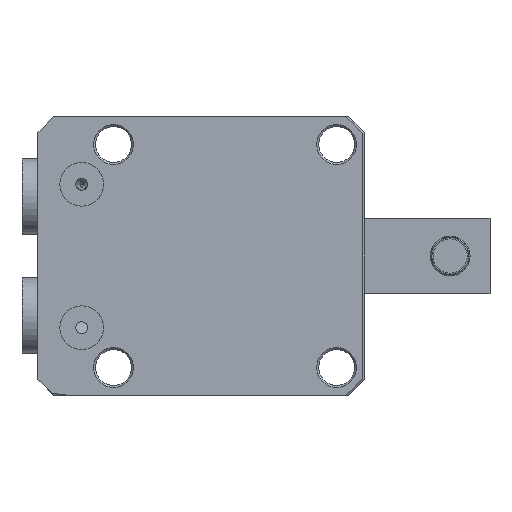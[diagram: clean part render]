
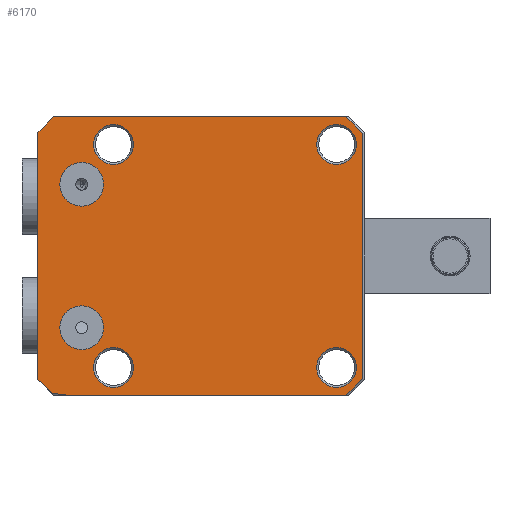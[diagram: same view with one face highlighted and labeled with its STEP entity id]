
A CAD part, front view. The second image highlights one B-rep face of the part: STEP entity #6170.
In plain terms, the highlighted planar face has unit normal (0, -1, 0).
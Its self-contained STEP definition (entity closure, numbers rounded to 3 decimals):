
#164=PLANE('',#6900);
#289=FACE_BOUND('',#879,.T.);
#290=FACE_BOUND('',#880,.T.);
#291=FACE_BOUND('',#881,.T.);
#292=FACE_BOUND('',#882,.T.);
#293=FACE_BOUND('',#883,.T.);
#294=FACE_BOUND('',#884,.T.);
#504=FACE_OUTER_BOUND('',#878,.T.);
#878=EDGE_LOOP('',(#4318,#4319,#4320,#4321,#4322,#4323,#4324,#4325,#4326,
#4327));
#879=EDGE_LOOP('',(#4328));
#880=EDGE_LOOP('',(#4329));
#881=EDGE_LOOP('',(#4330));
#882=EDGE_LOOP('',(#4331));
#883=EDGE_LOOP('',(#4332));
#884=EDGE_LOOP('',(#4333));
#1303=LINE('',#10129,#1771);
#1320=LINE('',#10168,#1788);
#1321=LINE('',#10170,#1789);
#1322=LINE('',#10172,#1790);
#1323=LINE('',#10174,#1791);
#1324=LINE('',#10175,#1792);
#1325=LINE('',#10177,#1793);
#1326=LINE('',#10179,#1794);
#1327=LINE('',#10180,#1795);
#1771=VECTOR('',#7822,1000.);
#1788=VECTOR('',#7853,1000.);
#1789=VECTOR('',#7854,1000.);
#1790=VECTOR('',#7855,1000.);
#1791=VECTOR('',#7856,1000.);
#1792=VECTOR('',#7857,1000.);
#1793=VECTOR('',#7858,1000.);
#1794=VECTOR('',#7859,1000.);
#1795=VECTOR('',#7860,1000.);
#2202=CIRCLE('',#6829,5.);
#2205=CIRCLE('',#6833,5.);
#2208=CIRCLE('',#6837,5.);
#2211=CIRCLE('',#6841,5.);
#2213=CIRCLE('',#6844,5.5);
#2215=CIRCLE('',#6847,5.5);
#2243=CIRCLE('',#6901,55.5);
#2618=VERTEX_POINT('',#9738);
#2621=VERTEX_POINT('',#9746);
#2624=VERTEX_POINT('',#9754);
#2627=VERTEX_POINT('',#9762);
#2629=VERTEX_POINT('',#9768);
#2631=VERTEX_POINT('',#9774);
#2683=VERTEX_POINT('',#10126);
#2684=VERTEX_POINT('',#10128);
#2697=VERTEX_POINT('',#10164);
#2698=VERTEX_POINT('',#10165);
#2699=VERTEX_POINT('',#10167);
#2700=VERTEX_POINT('',#10169);
#2701=VERTEX_POINT('',#10171);
#2702=VERTEX_POINT('',#10173);
#2703=VERTEX_POINT('',#10176);
#2704=VERTEX_POINT('',#10178);
#3221=EDGE_CURVE('',#2618,#2618,#2202,.T.);
#3225=EDGE_CURVE('',#2621,#2621,#2205,.T.);
#3229=EDGE_CURVE('',#2624,#2624,#2208,.T.);
#3233=EDGE_CURVE('',#2627,#2627,#2211,.T.);
#3236=EDGE_CURVE('',#2629,#2629,#2213,.T.);
#3239=EDGE_CURVE('',#2631,#2631,#2215,.T.);
#3311=EDGE_CURVE('',#2683,#2684,#1303,.T.);
#3329=EDGE_CURVE('',#2697,#2698,#2243,.T.);
#3330=EDGE_CURVE('',#2698,#2699,#1320,.T.);
#3331=EDGE_CURVE('',#2699,#2700,#1321,.T.);
#3332=EDGE_CURVE('',#2700,#2701,#1322,.T.);
#3333=EDGE_CURVE('',#2701,#2702,#1323,.T.);
#3334=EDGE_CURVE('',#2702,#2684,#1324,.T.);
#3335=EDGE_CURVE('',#2683,#2703,#1325,.T.);
#3336=EDGE_CURVE('',#2703,#2704,#1326,.T.);
#3337=EDGE_CURVE('',#2704,#2697,#1327,.T.);
#4318=ORIENTED_EDGE('',*,*,#3329,.T.);
#4319=ORIENTED_EDGE('',*,*,#3330,.T.);
#4320=ORIENTED_EDGE('',*,*,#3331,.T.);
#4321=ORIENTED_EDGE('',*,*,#3332,.T.);
#4322=ORIENTED_EDGE('',*,*,#3333,.T.);
#4323=ORIENTED_EDGE('',*,*,#3334,.T.);
#4324=ORIENTED_EDGE('',*,*,#3311,.F.);
#4325=ORIENTED_EDGE('',*,*,#3335,.T.);
#4326=ORIENTED_EDGE('',*,*,#3336,.T.);
#4327=ORIENTED_EDGE('',*,*,#3337,.T.);
#4328=ORIENTED_EDGE('',*,*,#3221,.T.);
#4329=ORIENTED_EDGE('',*,*,#3225,.T.);
#4330=ORIENTED_EDGE('',*,*,#3229,.T.);
#4331=ORIENTED_EDGE('',*,*,#3233,.T.);
#4332=ORIENTED_EDGE('',*,*,#3236,.T.);
#4333=ORIENTED_EDGE('',*,*,#3239,.T.);
#6170=ADVANCED_FACE('',(#504,#289,#290,#291,#292,#293,#294),#164,.T.);
#6829=AXIS2_PLACEMENT_3D('',#9740,#7651,#7652);
#6833=AXIS2_PLACEMENT_3D('',#9748,#7660,#7661);
#6837=AXIS2_PLACEMENT_3D('',#9756,#7669,#7670);
#6841=AXIS2_PLACEMENT_3D('',#9764,#7678,#7679);
#6844=AXIS2_PLACEMENT_3D('',#9770,#7685,#7686);
#6847=AXIS2_PLACEMENT_3D('',#9776,#7692,#7693);
#6900=AXIS2_PLACEMENT_3D('',#10163,#7849,#7850);
#6901=AXIS2_PLACEMENT_3D('',#10166,#7851,#7852);
#7651=DIRECTION('center_axis',(0.,1.,0.));
#7652=DIRECTION('ref_axis',(1.,0.,0.));
#7660=DIRECTION('center_axis',(0.,1.,0.));
#7661=DIRECTION('ref_axis',(0.,0.,-1.));
#7669=DIRECTION('center_axis',(0.,1.,0.));
#7670=DIRECTION('ref_axis',(0.,0.,-1.));
#7678=DIRECTION('center_axis',(0.,1.,0.));
#7679=DIRECTION('ref_axis',(0.,0.,-1.));
#7685=DIRECTION('center_axis',(0.,1.,0.));
#7686=DIRECTION('ref_axis',(0.,0.,-1.));
#7692=DIRECTION('center_axis',(0.,1.,0.));
#7693=DIRECTION('ref_axis',(0.,0.,-1.));
#7822=DIRECTION('',(1.,0.,0.));
#7849=DIRECTION('center_axis',(0.,-1.,0.));
#7850=DIRECTION('ref_axis',(0.,0.,-1.));
#7851=DIRECTION('center_axis',(0.,1.,0.));
#7852=DIRECTION('ref_axis',(0.,0.,-1.));
#7853=DIRECTION('',(0.994,0.,-0.11));
#7854=DIRECTION('',(1.,0.,0.));
#7855=DIRECTION('',(0.707,0.,0.707));
#7856=DIRECTION('',(0.,0.,1.));
#7857=DIRECTION('',(-0.707,0.,0.707));
#7858=DIRECTION('',(-0.707,0.,-0.707));
#7859=DIRECTION('',(0.,0.,-1.));
#7860=DIRECTION('',(0.707,0.,-0.707));
#9738=CARTESIAN_POINT('',(422.71,103.516,-28.));
#9740=CARTESIAN_POINT('Origin',(427.71,103.516,-28.));
#9746=CARTESIAN_POINT('',(483.71,103.516,-23.));
#9748=CARTESIAN_POINT('Origin',(483.71,103.516,-28.));
#9754=CARTESIAN_POINT('',(483.71,103.516,33.));
#9756=CARTESIAN_POINT('Origin',(483.71,103.516,28.));
#9762=CARTESIAN_POINT('',(427.71,103.516,33.));
#9764=CARTESIAN_POINT('Origin',(427.71,103.516,28.));
#9768=CARTESIAN_POINT('',(419.71,103.516,-12.5));
#9770=CARTESIAN_POINT('Origin',(419.71,103.516,-18.));
#9774=CARTESIAN_POINT('',(419.71,103.516,23.5));
#9776=CARTESIAN_POINT('Origin',(419.71,103.516,18.));
#10126=CARTESIAN_POINT('',(412.71,103.516,35.));
#10128=CARTESIAN_POINT('',(486.003,103.516,35.));
#10129=CARTESIAN_POINT('',(412.71,103.516,35.));
#10163=CARTESIAN_POINT('Origin',(408.71,103.516,35.));
#10164=CARTESIAN_POINT('',(412.337,103.516,-34.627));
#10165=CARTESIAN_POINT('',(412.236,103.516,-34.5));
#10166=CARTESIAN_POINT('Origin',(455.71,103.516,0.));
#10167=CARTESIAN_POINT('',(416.752,103.516,-35.));
#10168=CARTESIAN_POINT('',(412.236,103.516,-34.5));
#10169=CARTESIAN_POINT('',(486.003,103.516,-35.));
#10170=CARTESIAN_POINT('',(408.71,103.516,-35.));
#10171=CARTESIAN_POINT('',(490.21,103.516,-30.793));
#10172=CARTESIAN_POINT('',(486.003,103.516,-35.));
#10173=CARTESIAN_POINT('',(490.21,103.516,30.793));
#10174=CARTESIAN_POINT('',(490.21,103.516,35.));
#10175=CARTESIAN_POINT('',(490.21,103.516,30.793));
#10176=CARTESIAN_POINT('',(408.71,103.516,31.));
#10177=CARTESIAN_POINT('',(412.71,103.516,35.));
#10178=CARTESIAN_POINT('',(408.71,103.516,-31.));
#10179=CARTESIAN_POINT('',(408.71,103.516,35.));
#10180=CARTESIAN_POINT('',(408.71,103.516,-31.));
